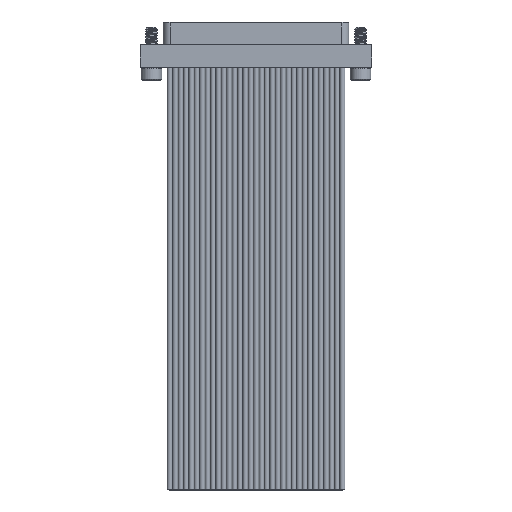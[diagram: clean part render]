
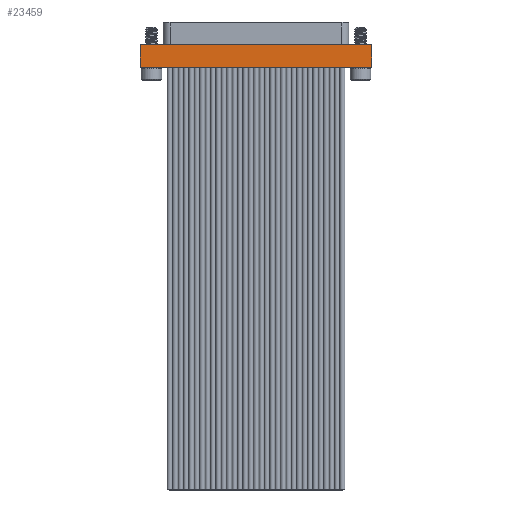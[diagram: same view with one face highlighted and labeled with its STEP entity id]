
A CAD part, front view. The second image highlights one B-rep face of the part: STEP entity #23459.
In plain terms, the highlighted planar face has unit normal (0, -1, 0).
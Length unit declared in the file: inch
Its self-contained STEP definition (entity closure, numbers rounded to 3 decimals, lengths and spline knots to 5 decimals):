
#269 = DIRECTION ( 'NONE',  ( 0., -1., 0. ) ) ;
#1368 = LINE ( 'NONE', #33532, #23160 ) ;
#1978 = EDGE_CURVE ( 'NONE', #3914, #5850, #35793, .T. ) ;
#2201 = DIRECTION ( 'NONE',  ( -1., 0., 0. ) ) ;
#2397 = CARTESIAN_POINT ( 'NONE',  ( 0.5375, -0.0625, -0.105 ) ) ;
#2870 = CARTESIAN_POINT ( 'NONE',  ( 0.5375, -0.0625, -0.21 ) ) ;
#3914 = VERTEX_POINT ( 'NONE', #5518 ) ;
#5518 = CARTESIAN_POINT ( 'NONE',  ( -0.5375, -0.0625, -0.21 ) ) ;
#5850 = VERTEX_POINT ( 'NONE', #29844 ) ;
#6114 = LINE ( 'NONE', #8406, #12760 ) ;
#6272 = EDGE_LOOP ( 'NONE', ( #15995, #13357, #30591, #17775 ) ) ;
#8406 = CARTESIAN_POINT ( 'NONE',  ( -0.5375, -0.0625, -0.21 ) ) ;
#11315 = EDGE_CURVE ( 'NONE', #15364, #27863, #1368, .T. ) ;
#12321 = LINE ( 'NONE', #24135, #33988 ) ;
#12617 = CARTESIAN_POINT ( 'NONE',  ( -0.5375, -0.0625, -0.105 ) ) ;
#12760 = VECTOR ( 'NONE', #31081, 39.37008 ) ;
#13231 = FACE_OUTER_BOUND ( 'NONE', #6272, .T. ) ;
#13357 = ORIENTED_EDGE ( 'NONE', *, *, #11315, .T. ) ;
#15364 = VERTEX_POINT ( 'NONE', #2397 ) ;
#15995 = ORIENTED_EDGE ( 'NONE', *, *, #24066, .T. ) ;
#17775 = ORIENTED_EDGE ( 'NONE', *, *, #1978, .T. ) ;
#18537 = DIRECTION ( 'NONE',  ( 0., 0., 1. ) ) ;
#20115 = DIRECTION ( 'NONE',  ( 0., 0., 1. ) ) ;
#22500 = AXIS2_PLACEMENT_3D ( 'NONE', #2870, #269, #20115 ) ;
#23160 = VECTOR ( 'NONE', #2201, 39.37008 ) ;
#23459 = ADVANCED_FACE ( 'NONE', ( #13231 ), #34188, .T. ) ;
#23766 = EDGE_CURVE ( 'NONE', #3914, #27863, #6114, .T. ) ;
#24066 = EDGE_CURVE ( 'NONE', #5850, #15364, #12321, .T. ) ;
#24135 = CARTESIAN_POINT ( 'NONE',  ( 0.5375, -0.0625, -0.21 ) ) ;
#27414 = VECTOR ( 'NONE', #36218, 39.37008 ) ;
#27731 = CARTESIAN_POINT ( 'NONE',  ( 0.5375, -0.0625, -0.21 ) ) ;
#27863 = VERTEX_POINT ( 'NONE', #12617 ) ;
#29844 = CARTESIAN_POINT ( 'NONE',  ( 0.5375, -0.0625, -0.21 ) ) ;
#30591 = ORIENTED_EDGE ( 'NONE', *, *, #23766, .F. ) ;
#31081 = DIRECTION ( 'NONE',  ( 0., 0., 1. ) ) ;
#33532 = CARTESIAN_POINT ( 'NONE',  ( 0.5375, -0.0625, -0.105 ) ) ;
#33988 = VECTOR ( 'NONE', #18537, 39.37008 ) ;
#34188 = PLANE ( 'NONE',  #22500 ) ;
#35793 = LINE ( 'NONE', #27731, #27414 ) ;
#36218 = DIRECTION ( 'NONE',  ( 1., 0., 0. ) ) ;
